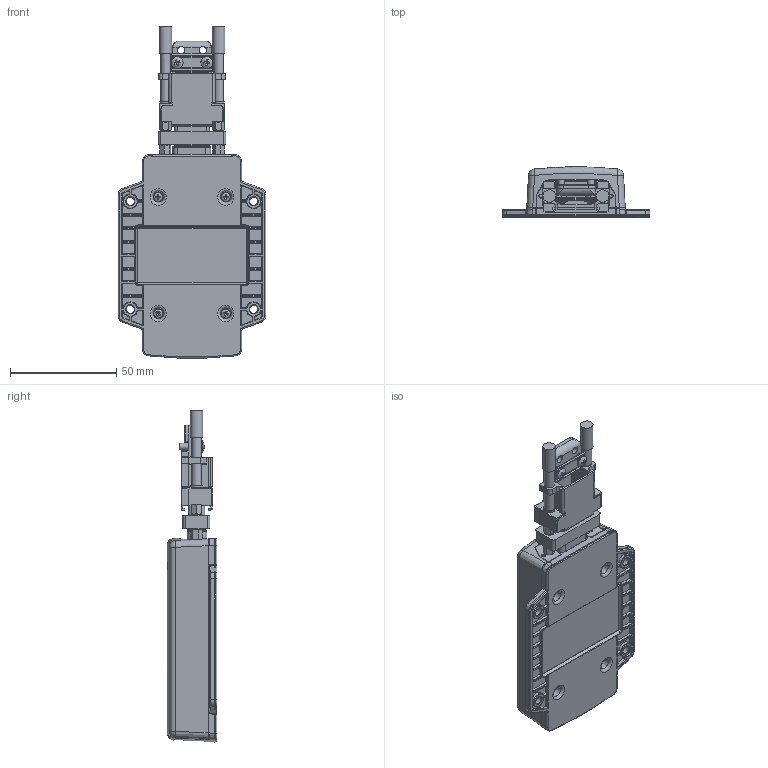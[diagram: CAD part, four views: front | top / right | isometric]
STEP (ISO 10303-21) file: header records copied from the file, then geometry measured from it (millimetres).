
FILE_DESCRIPTION (( 'STEP AP203' ), '1' );
FILE_NAME ('GMU11_011-04349-00_C[011-03002-00]_revB.STEP', '2017-08-30T19:20:27', ( 'Garmin' ), ( 'Garmin' ), 'SwSTEP 2.0', 'SolidWorks 2016', '' );
FILE_SCHEMA (( 'CONFIG_CONTROL_DESIGN' ));
Length unit declared in the file: inch
Products named in the file (1): GMU11_011-04349-00_C[011-03002-00]_revB
Bounding box: 69.52 x 23.5 x 156.13 mm (x, y, z)
Volume: 110227.5 mm3; surface area: 29205.3 mm2
Topology: 2 solids, 7 shells, 1487 faces, 3749 edges, 2330 vertices
Faces by surface type: plane 831, cylinder 392, bspline 135, torus 64, cone 41, sphere 24
Full cylindrical faces by diameter (mm): 0.991 x9, 2.261 x2, 2.845 x2, 3.048 x4, 3.124 x2, 3.302 x2, 3.454 x2, 4.4 x4, 4.572 x6, 4.801 x2, 5.309 x2, 5.588 x2, 5.944 x2
Entity records: 48602 total; most frequent: CARTESIAN_POINT 16794, ORIENTED_EDGE 7150, DIRECTION 5821, EDGE_CURVE 3575, VERTEX_POINT 2280, AXIS2_PLACEMENT_3D 1989, VECTOR 1843, LINE 1843
